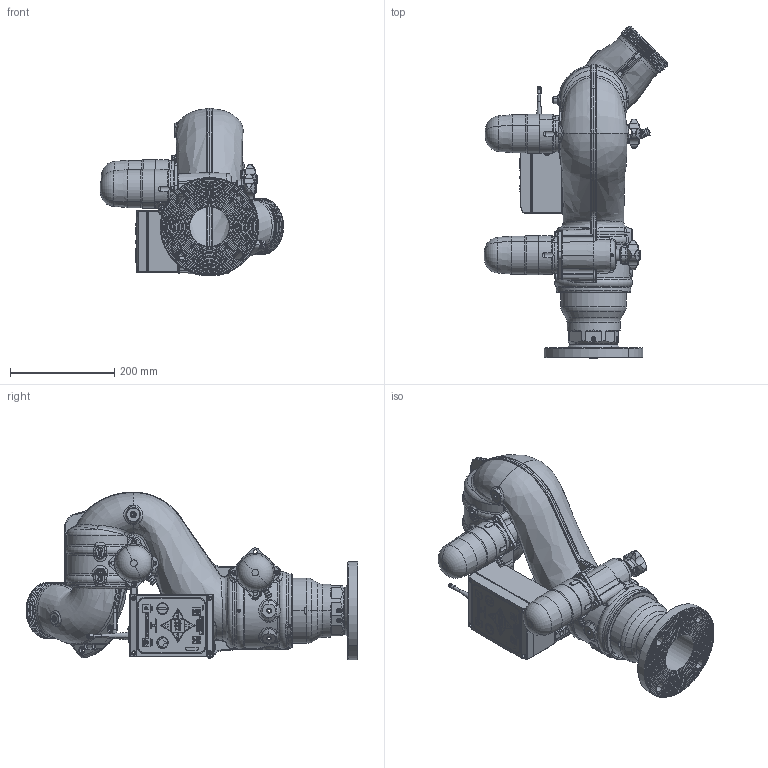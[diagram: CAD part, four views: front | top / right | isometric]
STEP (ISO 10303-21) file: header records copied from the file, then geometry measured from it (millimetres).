
FILE_DESCRIPTION (( 'STEP AP203' ), '1' );
FILE_NAME ('Y5-E11A-L_45_Up.STEP', '2014-07-03T17:00:11', ( '' ), ( '' ), 'SwSTEP 2.0', 'SolidWorks 2014', '' );
FILE_SCHEMA (( 'CONFIG_CONTROL_DESIGN' ));
Products named in the file (1): Y5-E11A-L_45_Up
Bounding box: 351.36 x 636.06 x 321.71 mm (x, y, z)
Surface area: 748345 mm2 (no closed solid volume)
Topology: 0 solids, 188 shells, 2245 faces, 9703 edges, 7506 vertices
Faces by surface type: plane 632, cylinder 430, bspline 417, torus 402, cone 319, sphere 45
Entity records: 195738 total; most frequent: CARTESIAN_POINT 123613, ORIENTED_EDGE 14106, DIRECTION 12935, EDGE_CURVE 9694, VERTEX_POINT 7506, AXIS2_PLACEMENT_3D 4324, VECTOR 4287, LINE 4287
